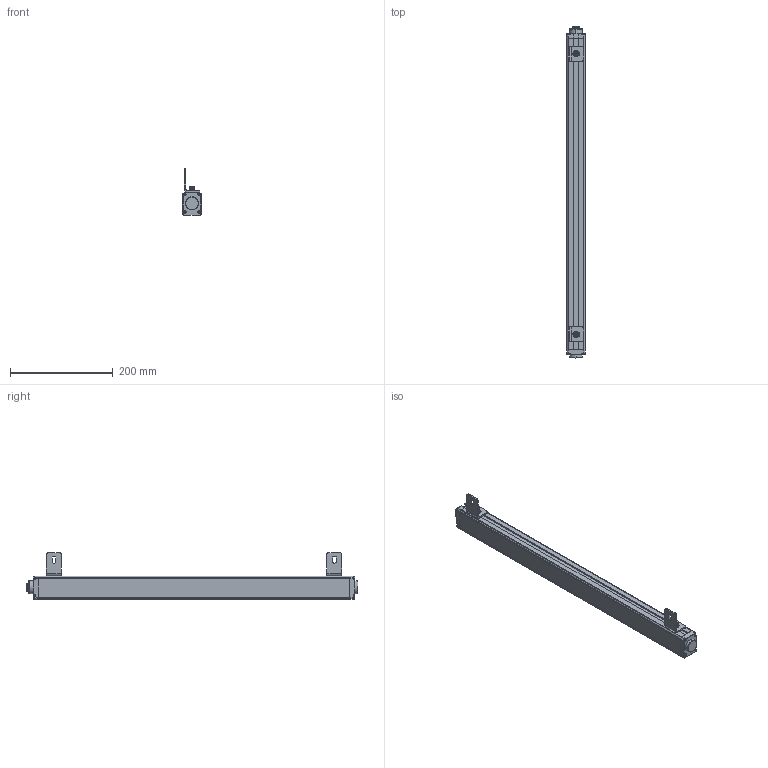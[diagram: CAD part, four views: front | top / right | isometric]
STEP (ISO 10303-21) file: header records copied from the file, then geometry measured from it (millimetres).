
FILE_DESCRIPTION((''),'2;1');
FILE_NAME('ESCL-00_ASM','2021-07-17T12:17:12',('18720616900'),(''),'CREO PARAMETRIC BY PTC INC, 2019010','CREO PARAMETRIC BY PTC INC, 2019010','');
FILE_SCHEMA(('CONFIG_CONTROL_DESIGN'));
Products named in the file (12): ESCL-00; ESCL-3-SOLID1000; ESCL-4-SOLID1000; HKCT1_-4-SOLID1; L10001; M6-8--0001; M6-1--00; M6-1-00; 00; M6-80001_ASM; L1--0001_ASM; ESCL-00_ASM
Assembly tree (12 placements, depth 4):
  ESCL-00_ASM
    ESCL-00
    ESCL-3-SOLID1000
    ESCL-4-SOLID1000
    HKCT1_-4-SOLID1
    L1--0001_ASM  x2
      L10001
      M6-80001_ASM
        M6-8--0001
        M6-1--00
        M6-1-00
        00
Bounding box: 36.1 x 645.1 x 91.11 mm (x, y, z)
Volume: 918327.4 mm3; surface area: 146727.1 mm2
Topology: 14 solids, 14 shells, 625 faces, 1645 edges, 1070 vertices
Faces by surface type: plane 226, cylinder 208, cone 78, bspline 66, torus 47
Entity records: 76177 total; most frequent: CARTESIAN_POINT 63991, ORIENTED_EDGE 2664, DIRECTION 2275, EDGE_CURVE 1332, VERTEX_POINT 872, AXIS2_PLACEMENT_3D 816, VECTOR 643, LINE 643
